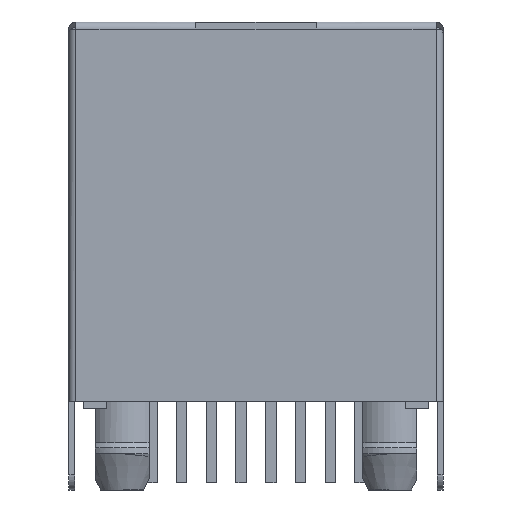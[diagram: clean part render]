
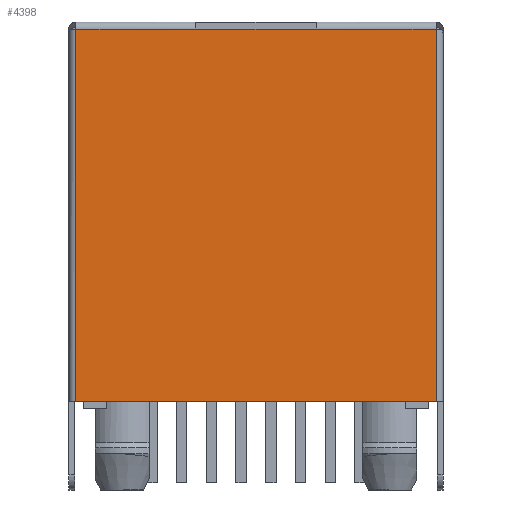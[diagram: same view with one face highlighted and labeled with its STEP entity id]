
A CAD part, front view. The second image highlights one B-rep face of the part: STEP entity #4398.
In plain terms, the highlighted planar face has unit normal (0, -1, 0).
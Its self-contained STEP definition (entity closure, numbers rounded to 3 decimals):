
#41=DIRECTION('',(-1.,0.,0.));
#42=VECTOR('',#41,5.125);
#43=CARTESIAN_POINT('',(7.7,-8.35,-0.3));
#44=LINE('',#43,#42);
#197=DIRECTION('',(-1.,0.,0.));
#198=VECTOR('',#197,5.125);
#199=CARTESIAN_POINT('',(-2.575,-8.35,-0.3));
#200=LINE('',#199,#198);
#299=DIRECTION('',(1.,0.,0.));
#300=VECTOR('',#299,5.15);
#301=CARTESIAN_POINT('',(-2.575,-8.35,-0.3));
#302=LINE('',#301,#300);
#307=DIRECTION('',(0.,0.,1.));
#308=VECTOR('',#307,15.9);
#309=CARTESIAN_POINT('',(7.7,-8.35,-16.2));
#310=LINE('',#309,#308);
#456=DIRECTION('',(1.,0.,0.));
#457=VECTOR('',#456,15.4);
#458=CARTESIAN_POINT('',(-7.7,-8.35,-16.2));
#459=LINE('',#458,#457);
#1033=DIRECTION('',(0.,0.,-1.));
#1034=VECTOR('',#1033,15.9);
#1035=CARTESIAN_POINT('',(-7.7,-8.35,-0.3));
#1036=LINE('',#1035,#1034);
#3115=CARTESIAN_POINT('',(7.7,-8.35,-0.3));
#3116=VERTEX_POINT('',#3115);
#3117=CARTESIAN_POINT('',(2.575,-8.35,-0.3));
#3118=VERTEX_POINT('',#3117);
#3163=CARTESIAN_POINT('',(-2.575,-8.35,-0.3));
#3164=VERTEX_POINT('',#3163);
#3165=CARTESIAN_POINT('',(-7.7,-8.35,-0.3));
#3166=VERTEX_POINT('',#3165);
#3211=CARTESIAN_POINT('',(7.7,-8.35,-16.2));
#3212=VERTEX_POINT('',#3211);
#3213=CARTESIAN_POINT('',(-7.7,-8.35,-16.2));
#3214=VERTEX_POINT('',#3213);
#4382=CARTESIAN_POINT('',(-8.,-8.35,0.));
#4383=DIRECTION('',(0.,-1.,0.));
#4384=DIRECTION('',(1.,0.,0.));
#4385=AXIS2_PLACEMENT_3D('',#4382,#4383,#4384);
#4386=PLANE('',#4385);
#4387=ORIENTED_EDGE('',*,*,#3988,.F.);
#4389=ORIENTED_EDGE('',*,*,#4388,.F.);
#4391=ORIENTED_EDGE('',*,*,#4390,.F.);
#4393=ORIENTED_EDGE('',*,*,#4392,.F.);
#4394=ORIENTED_EDGE('',*,*,#4175,.F.);
#4395=ORIENTED_EDGE('',*,*,#4340,.T.);
#4396=EDGE_LOOP('',(#4387,#4389,#4391,#4393,#4394,#4395));
#4397=FACE_OUTER_BOUND('',#4396,.F.);
#3988=EDGE_CURVE('',#3116,#3118,#44,.T.);
#4175=EDGE_CURVE('',#3164,#3166,#200,.T.);
#4340=EDGE_CURVE('',#3164,#3118,#302,.T.);
#4388=EDGE_CURVE('',#3212,#3116,#310,.T.);
#4390=EDGE_CURVE('',#3214,#3212,#459,.T.);
#4392=EDGE_CURVE('',#3166,#3214,#1036,.T.);
#4398=ADVANCED_FACE('',(#4397),#4386,.T.);
